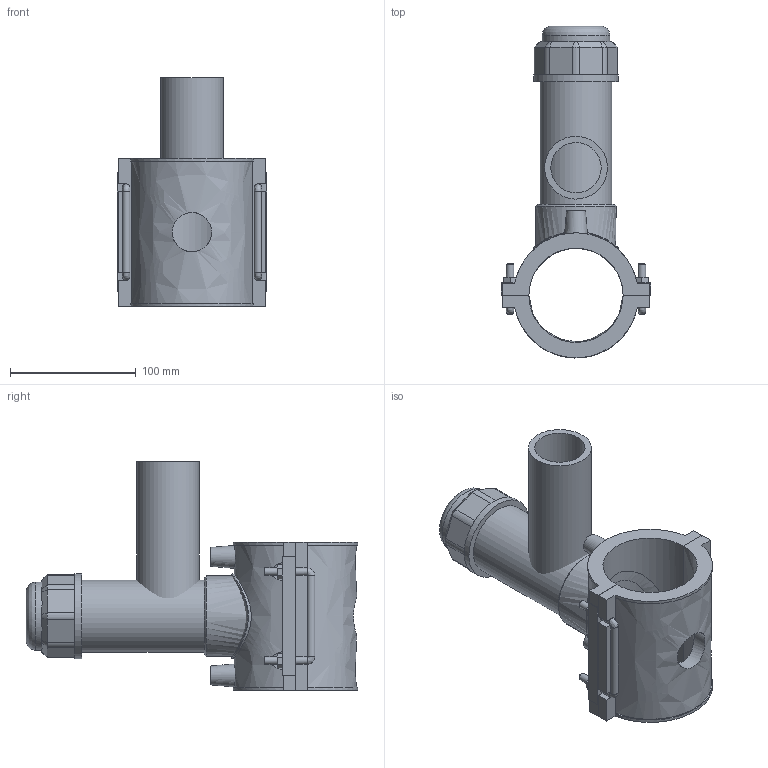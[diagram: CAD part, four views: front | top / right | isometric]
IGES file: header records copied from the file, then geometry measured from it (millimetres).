
Global section: file name: 4963P4075050; native system: Autodesk Inventor 2019; preprocessor: unknown; author: KIM; date: 20220317.112627; units: millimetre
Bounding box: 119 x 264.22 x 182 mm (x, y, z)
Volume: 777349.8 mm3; surface area: 193556.3 mm2
Topology: 3 solids, 3 shells, 186 faces, 485 edges, 312 vertices
Faces by surface type: bspline 186
